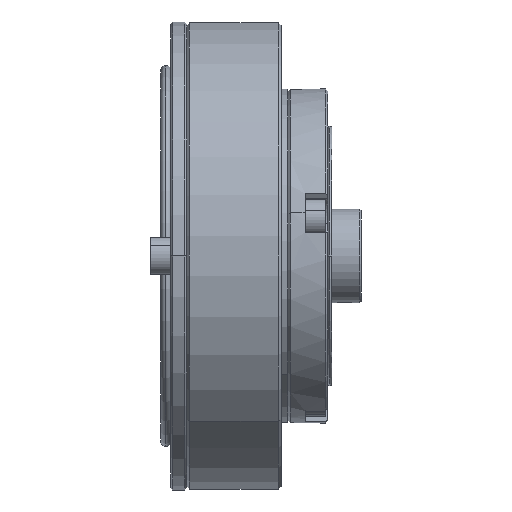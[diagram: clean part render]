
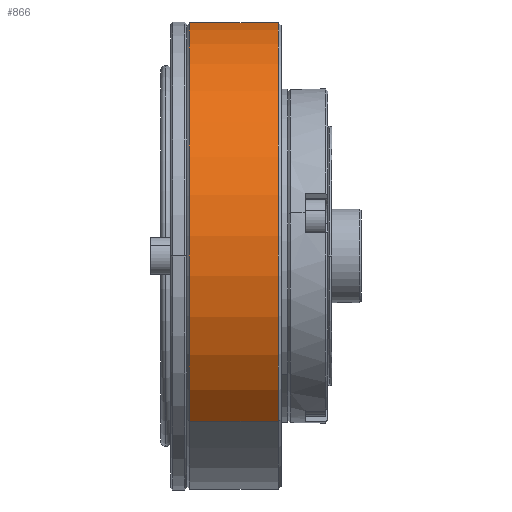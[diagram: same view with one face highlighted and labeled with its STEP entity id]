
A CAD part, front view. The second image highlights one B-rep face of the part: STEP entity #866.
In plain terms, the highlighted cylindrical face has radius 35 mm (diameter 70 mm), a partial arc.
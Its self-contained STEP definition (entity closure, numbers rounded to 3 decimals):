
#94 = ORIENTED_EDGE ( 'NONE', *, *, #7444, .T. ) ;
#105 = VECTOR ( 'NONE', #5215, 1000. ) ;
#462 = DIRECTION ( 'NONE',  ( -1., 0., 0. ) ) ;
#866 = ADVANCED_FACE ( 'NONE', ( #9600 ), #9121, .T. ) ;
#1046 = EDGE_LOOP ( 'NONE', ( #11783, #94, #13891, #4352 ) ) ;
#1966 = VERTEX_POINT ( 'NONE', #14809 ) ;
#2006 = CARTESIAN_POINT ( 'NONE',  ( -12.4, -24.749, -24.749 ) ) ;
#2149 = CARTESIAN_POINT ( 'NONE',  ( -82.414, -24.749, -24.749 ) ) ;
#3668 = DIRECTION ( 'NONE',  ( -1., 0., 0. ) ) ;
#4168 = CARTESIAN_POINT ( 'NONE',  ( -12.4, 24.749, 24.749 ) ) ;
#4200 = DIRECTION ( 'NONE',  ( 1., 0., 0. ) ) ;
#4352 = ORIENTED_EDGE ( 'NONE', *, *, #16147, .F. ) ;
#4413 = VERTEX_POINT ( 'NONE', #2006 ) ;
#4533 = AXIS2_PLACEMENT_3D ( 'NONE', #9435, #462, #10914 ) ;
#5215 = DIRECTION ( 'NONE',  ( -1., 0., 0. ) ) ;
#5892 = VECTOR ( 'NONE', #3668, 1000. ) ;
#6358 = LINE ( 'NONE', #2149, #5892 ) ;
#6381 = CIRCLE ( 'NONE', #8797, 35. ) ;
#7444 = EDGE_CURVE ( 'NONE', #19261, #1966, #15550, .T. ) ;
#8221 = EDGE_CURVE ( 'NONE', #1966, #17074, #6381, .T. ) ;
#8797 = AXIS2_PLACEMENT_3D ( 'NONE', #13137, #4200, #14649 ) ;
#9121 = CYLINDRICAL_SURFACE ( 'NONE', #12798, 35. ) ;
#9421 = EDGE_CURVE ( 'NONE', #4413, #19261, #10078, .T. ) ;
#9435 = CARTESIAN_POINT ( 'NONE',  ( -12.4, 0., 0. ) ) ;
#9600 = FACE_OUTER_BOUND ( 'NONE', #1046, .T. ) ;
#10078 = CIRCLE ( 'NONE', #4533, 35. ) ;
#10245 = DIRECTION ( 'NONE',  ( 0., -0.707, -0.707 ) ) ;
#10914 = DIRECTION ( 'NONE',  ( 0., -0.707, -0.707 ) ) ;
#11783 = ORIENTED_EDGE ( 'NONE', *, *, #9421, .T. ) ;
#12249 = CARTESIAN_POINT ( 'NONE',  ( -25.7, -24.749, -24.749 ) ) ;
#12798 = AXIS2_PLACEMENT_3D ( 'NONE', #13178, #19236, #10245 ) ;
#13137 = CARTESIAN_POINT ( 'NONE',  ( -25.7, 0., 0. ) ) ;
#13178 = CARTESIAN_POINT ( 'NONE',  ( -82.414, 0., 0. ) ) ;
#13891 = ORIENTED_EDGE ( 'NONE', *, *, #8221, .T. ) ;
#14649 = DIRECTION ( 'NONE',  ( 0., 0.707, 0.707 ) ) ;
#14809 = CARTESIAN_POINT ( 'NONE',  ( -25.7, 24.749, 24.749 ) ) ;
#15550 = LINE ( 'NONE', #15667, #105 ) ;
#15667 = CARTESIAN_POINT ( 'NONE',  ( -82.414, 24.749, 24.749 ) ) ;
#16147 = EDGE_CURVE ( 'NONE', #4413, #17074, #6358, .T. ) ;
#17074 = VERTEX_POINT ( 'NONE', #12249 ) ;
#19236 = DIRECTION ( 'NONE',  ( -1., 0., 0. ) ) ;
#19261 = VERTEX_POINT ( 'NONE', #4168 ) ;
